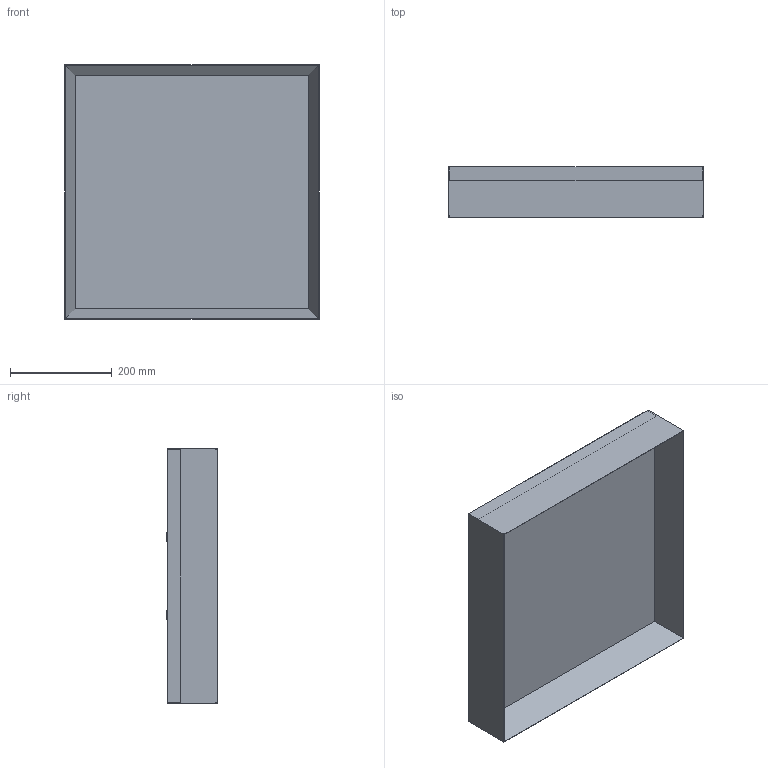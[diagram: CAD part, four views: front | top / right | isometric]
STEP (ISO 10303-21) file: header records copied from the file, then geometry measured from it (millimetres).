
FILE_DESCRIPTION((''),'2;1');
FILE_NAME('PROFILO_500_Q','2026-02-26T09:04:14',('Minervini'),(''),'CREO PARAMETRIC BY PTC INC, 2025010','CREO PARAMETRIC BY PTC INC, 2025010','');
FILE_SCHEMA(('CONFIG_CONTROL_DESIGN'));
Length unit declared in the file: millimetre
Products named in the file (1): PROFILO_500_Q
Bounding box: 500 x 101.38 x 500 mm (x, y, z)
Surface area: 884437.4 mm2 (no closed solid volume)
Topology: 0 solids, 19 shells, 29 faces, 425 edges, 412 vertices
Faces by surface type: plane 23, cylinder 6
Entity records: 4920 total; most frequent: CARTESIAN_POINT 2022, DIRECTION 556, ORIENTED_EDGE 438, EDGE_CURVE 425, VERTEX_POINT 412, VECTOR 280, LINE 280, AXIS2_PLACEMENT_3D 138
